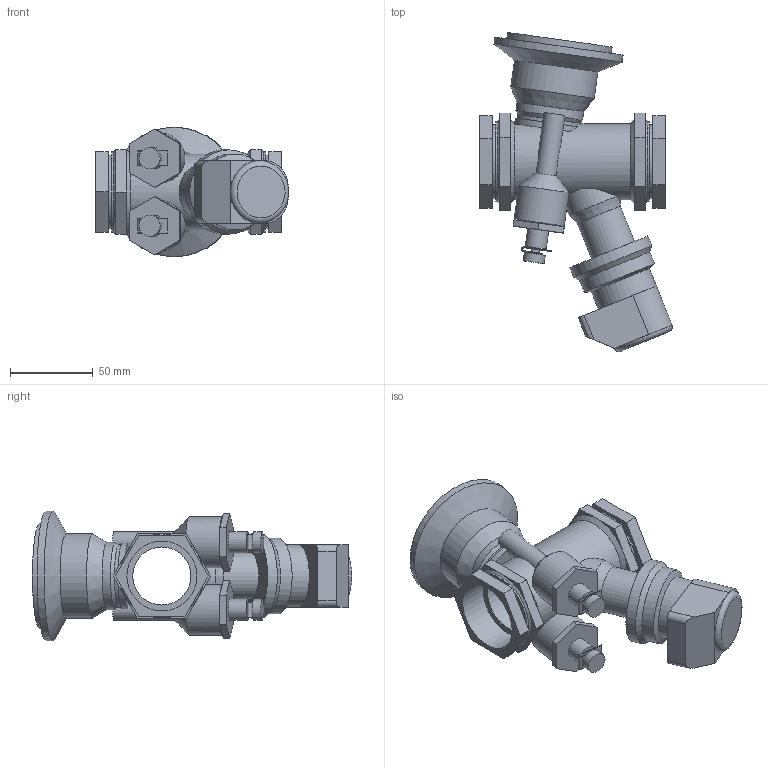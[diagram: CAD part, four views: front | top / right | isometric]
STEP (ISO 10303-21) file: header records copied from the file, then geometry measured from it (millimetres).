
FILE_DESCRIPTION(/* description */ ('VIC BALANCING AND CONTROL VALVE SERIES 7CP (FPT)-EMO TM','CAx-IF Rec.Pracs.---Representation and Presentation of Product Manufacturing Information (PMI)---4.0---2014-10-13'),/* implementation_level */ '2;1');
FILE_NAME(/* name */ 'C:\Users\Vjadhav\AppData\Roaming\Autodesk\ApplicationPlugins\Victaulic.Temp\A633\Victaulic_IPS_Valve Balancing Pressure Independent_TA Series 7CP (FPT)_EMO TM_1.25 (32).stp',/* time_stamp */ '2021-09-14T20:04:12+06:00',/* author */ ('Vjadhav'),/* organization */ ('Victaulic'),/* preprocessor_version */ 'ST-DEVELOPER v17.2',/* originating_system */ 'Autodesk Inventor 2019',/* authorisation */ '');
FILE_SCHEMA (('AP242_MANAGED_MODEL_BASED_3D_ENGINEERING_MIM_LF { 1 0 10303 442 1 1 4 }'));
Length unit declared in the file: inch
Products named in the file (2): 7CP_EMO TM-01.25; 7CP-01.25
Assembly tree (1 placements, depth 2):
  7CP_EMO TM-01.25
    7CP-01.25
Bounding box: 116.21 x 192.28 x 77.98 mm (x, y, z)
Volume: 325282.2 mm3; surface area: 79471.7 mm2
Topology: 1 solids, 1 shells, 180 faces, 462 edges, 306 vertices
Faces by surface type: plane 118, cylinder 48, cone 13, torus 1
Full cylindrical faces by diameter (mm): 5.08 x6, 12.7 x8, 27.889 x1, 30.48 x2, 35.052 x2, 37.631 x1, 40.64 x1, 42.164 x3, 44.45 x2, 45.72 x2, 48.26 x2, 50.8 x2, 63.5 x1, 77.978 x1
Entity records: 6082 total; most frequent: CARTESIAN_POINT 1233, DIRECTION 997, ORIENTED_EDGE 924, EDGE_CURVE 462, AXIS2_PLACEMENT_3D 373, VERTEX_POINT 306, LINE 251, VECTOR 251
